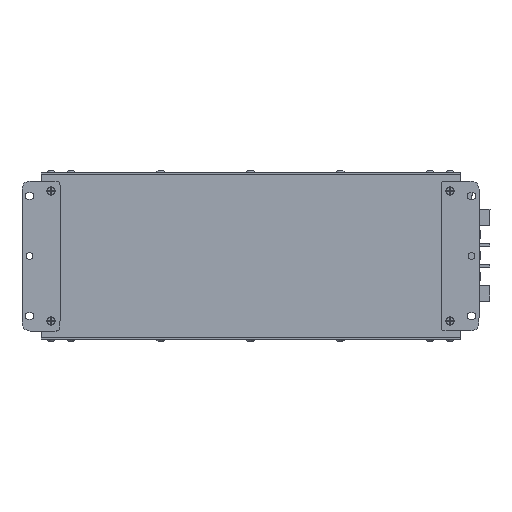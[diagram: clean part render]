
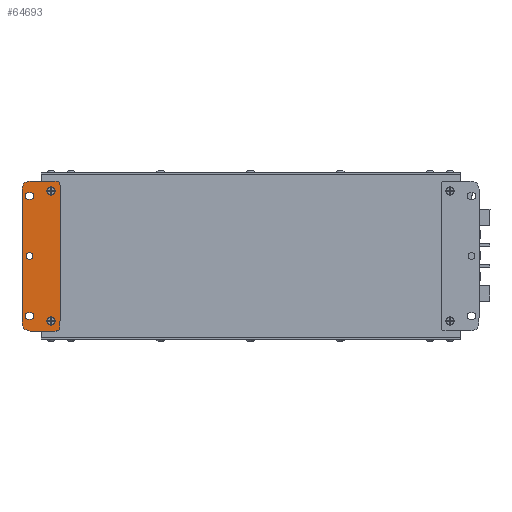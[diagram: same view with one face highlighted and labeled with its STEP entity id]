
A CAD part, front view. The second image highlights one B-rep face of the part: STEP entity #64693.
In plain terms, the highlighted planar face has unit normal (0, -1, 0).
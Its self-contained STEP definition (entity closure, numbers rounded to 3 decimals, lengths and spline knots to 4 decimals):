
#2730=FACE_BOUND('',#20089,.T.);
#2731=FACE_BOUND('',#20090,.T.);
#2732=FACE_BOUND('',#20091,.T.);
#2733=FACE_BOUND('',#20092,.T.);
#2734=FACE_BOUND('',#20093,.T.);
#3503=PLANE('',#67903);
#5825=LINE('',#92659,#11136);
#5826=LINE('',#92663,#11137);
#5827=LINE('',#92667,#11138);
#5828=LINE('',#92670,#11139);
#5829=LINE('',#92677,#11140);
#5830=LINE('',#92681,#11141);
#5831=LINE('',#92685,#11142);
#5832=LINE('',#92689,#11143);
#11136=VECTOR('',#74255,0.3937);
#11137=VECTOR('',#74258,0.3937);
#11138=VECTOR('',#74261,0.3937);
#11139=VECTOR('',#74264,0.3937);
#11140=VECTOR('',#74269,0.3937);
#11141=VECTOR('',#74272,0.3937);
#11142=VECTOR('',#74275,0.3937);
#11143=VECTOR('',#74278,0.3937);
#16921=FACE_OUTER_BOUND('',#20088,.T.);
#20088=EDGE_LOOP('',(#44651,#44652,#44653,#44654,#44655,#44656,#44657,#44658));
#20089=EDGE_LOOP('',(#44659));
#20090=EDGE_LOOP('',(#44660));
#20091=EDGE_LOOP('',(#44661,#44662,#44663,#44664));
#20092=EDGE_LOOP('',(#44665,#44666,#44667,#44668));
#20093=EDGE_LOOP('',(#44669));
#23536=CIRCLE('',#67902,0.1673);
#23537=CIRCLE('',#67904,0.315);
#23538=CIRCLE('',#67905,0.315);
#23539=CIRCLE('',#67906,0.1575);
#23540=CIRCLE('',#67907,0.1575);
#23541=CIRCLE('',#67908,0.1673);
#23542=CIRCLE('',#67909,0.1299);
#23543=CIRCLE('',#67910,0.1299);
#23544=CIRCLE('',#67911,0.1299);
#23545=CIRCLE('',#67912,0.1299);
#23546=CIRCLE('',#67913,0.1299);
#26425=VERTEX_POINT('',#92651);
#26426=VERTEX_POINT('',#92655);
#26427=VERTEX_POINT('',#92656);
#26428=VERTEX_POINT('',#92658);
#26429=VERTEX_POINT('',#92660);
#26430=VERTEX_POINT('',#92662);
#26431=VERTEX_POINT('',#92664);
#26432=VERTEX_POINT('',#92666);
#26433=VERTEX_POINT('',#92668);
#26434=VERTEX_POINT('',#92671);
#26435=VERTEX_POINT('',#92673);
#26436=VERTEX_POINT('',#92675);
#26437=VERTEX_POINT('',#92676);
#26438=VERTEX_POINT('',#92678);
#26439=VERTEX_POINT('',#92680);
#26440=VERTEX_POINT('',#92683);
#26441=VERTEX_POINT('',#92684);
#26442=VERTEX_POINT('',#92686);
#26443=VERTEX_POINT('',#92688);
#33750=EDGE_CURVE('',#26425,#26425,#23536,.T.);
#33752=EDGE_CURVE('',#26426,#26427,#23537,.T.);
#33753=EDGE_CURVE('',#26427,#26428,#5825,.T.);
#33754=EDGE_CURVE('',#26428,#26429,#23538,.T.);
#33755=EDGE_CURVE('',#26429,#26430,#5826,.T.);
#33756=EDGE_CURVE('',#26430,#26431,#23539,.T.);
#33757=EDGE_CURVE('',#26431,#26432,#5827,.T.);
#33758=EDGE_CURVE('',#26432,#26433,#23540,.T.);
#33759=EDGE_CURVE('',#26433,#26426,#5828,.T.);
#33760=EDGE_CURVE('',#26434,#26434,#23541,.T.);
#33761=EDGE_CURVE('',#26435,#26435,#23542,.T.);
#33762=EDGE_CURVE('',#26436,#26437,#5829,.T.);
#33763=EDGE_CURVE('',#26437,#26438,#23543,.T.);
#33764=EDGE_CURVE('',#26438,#26439,#5830,.T.);
#33765=EDGE_CURVE('',#26439,#26436,#23544,.T.);
#33766=EDGE_CURVE('',#26440,#26441,#5831,.T.);
#33767=EDGE_CURVE('',#26441,#26442,#23545,.T.);
#33768=EDGE_CURVE('',#26442,#26443,#5832,.T.);
#33769=EDGE_CURVE('',#26443,#26440,#23546,.T.);
#44651=ORIENTED_EDGE('',*,*,#33752,.T.);
#44652=ORIENTED_EDGE('',*,*,#33753,.T.);
#44653=ORIENTED_EDGE('',*,*,#33754,.T.);
#44654=ORIENTED_EDGE('',*,*,#33755,.T.);
#44655=ORIENTED_EDGE('',*,*,#33756,.T.);
#44656=ORIENTED_EDGE('',*,*,#33757,.T.);
#44657=ORIENTED_EDGE('',*,*,#33758,.T.);
#44658=ORIENTED_EDGE('',*,*,#33759,.T.);
#44659=ORIENTED_EDGE('',*,*,#33760,.F.);
#44660=ORIENTED_EDGE('',*,*,#33761,.T.);
#44661=ORIENTED_EDGE('',*,*,#33762,.T.);
#44662=ORIENTED_EDGE('',*,*,#33763,.T.);
#44663=ORIENTED_EDGE('',*,*,#33764,.T.);
#44664=ORIENTED_EDGE('',*,*,#33765,.T.);
#44665=ORIENTED_EDGE('',*,*,#33766,.T.);
#44666=ORIENTED_EDGE('',*,*,#33767,.T.);
#44667=ORIENTED_EDGE('',*,*,#33768,.T.);
#44668=ORIENTED_EDGE('',*,*,#33769,.T.);
#44669=ORIENTED_EDGE('',*,*,#33750,.F.);
#64693=ADVANCED_FACE('',(#16921,#2730,#2731,#2732,#2733,#2734),#3503,.T.);
#67902=AXIS2_PLACEMENT_3D('',#92652,#74248,#74249);
#67903=AXIS2_PLACEMENT_3D('',#92654,#74251,#74252);
#67904=AXIS2_PLACEMENT_3D('',#92657,#74253,#74254);
#67905=AXIS2_PLACEMENT_3D('',#92661,#74256,#74257);
#67906=AXIS2_PLACEMENT_3D('',#92665,#74259,#74260);
#67907=AXIS2_PLACEMENT_3D('',#92669,#74262,#74263);
#67908=AXIS2_PLACEMENT_3D('',#92672,#74265,#74266);
#67909=AXIS2_PLACEMENT_3D('',#92674,#74267,#74268);
#67910=AXIS2_PLACEMENT_3D('',#92679,#74270,#74271);
#67911=AXIS2_PLACEMENT_3D('',#92682,#74273,#74274);
#67912=AXIS2_PLACEMENT_3D('',#92687,#74276,#74277);
#67913=AXIS2_PLACEMENT_3D('',#92690,#74279,#74280);
#74248=DIRECTION('center_axis',(0.,-1.,0.));
#74249=DIRECTION('ref_axis',(0.,0.,-1.));
#74251=DIRECTION('center_axis',(0.,-1.,0.));
#74252=DIRECTION('ref_axis',(-1.,0.,0.));
#74253=DIRECTION('center_axis',(0.,-1.,0.));
#74254=DIRECTION('ref_axis',(0.,0.,1.));
#74255=DIRECTION('',(0.,0.,-1.));
#74256=DIRECTION('center_axis',(0.,-1.,0.));
#74257=DIRECTION('ref_axis',(-1.,0.,0.));
#74258=DIRECTION('',(1.,0.,0.));
#74259=DIRECTION('center_axis',(0.,-1.,0.));
#74260=DIRECTION('ref_axis',(0.,0.,-1.));
#74261=DIRECTION('',(0.,0.,1.));
#74262=DIRECTION('center_axis',(0.,-1.,0.));
#74263=DIRECTION('ref_axis',(1.,0.,0.));
#74264=DIRECTION('',(-1.,0.,0.));
#74265=DIRECTION('center_axis',(0.,-1.,0.));
#74266=DIRECTION('ref_axis',(0.,0.,-1.));
#74267=DIRECTION('center_axis',(0.,1.,0.));
#74268=DIRECTION('ref_axis',(0.,0.,-1.));
#74269=DIRECTION('',(1.,0.,0.));
#74270=DIRECTION('center_axis',(0.,1.,0.));
#74271=DIRECTION('ref_axis',(0.,0.,1.));
#74272=DIRECTION('',(-1.,0.,0.));
#74273=DIRECTION('center_axis',(0.,1.,0.));
#74274=DIRECTION('ref_axis',(0.,0.,-1.));
#74275=DIRECTION('',(1.,0.,0.));
#74276=DIRECTION('center_axis',(0.,1.,0.));
#74277=DIRECTION('ref_axis',(0.,0.,1.));
#74278=DIRECTION('',(-1.,0.,0.));
#74279=DIRECTION('center_axis',(0.,1.,0.));
#74280=DIRECTION('ref_axis',(0.,0.,-1.));
#92651=CARTESIAN_POINT('',(-16.4442,-0.1339,-0.7799));
#92652=CARTESIAN_POINT('Origin',(-16.4442,-0.1339,-0.9472));
#92654=CARTESIAN_POINT('Origin',(-16.8379,-0.1339,-3.5063));
#92655=CARTESIAN_POINT('',(-17.271,-0.1339,-0.5535));
#92656=CARTESIAN_POINT('',(-17.5859,-0.1339,-0.8685));
#92657=CARTESIAN_POINT('Origin',(-17.271,-0.1339,-0.8685));
#92658=CARTESIAN_POINT('',(-17.5859,-0.1339,-6.144));
#92659=CARTESIAN_POINT('',(-17.5859,-0.1339,-0.8685));
#92660=CARTESIAN_POINT('',(-17.271,-0.1339,-6.459));
#92661=CARTESIAN_POINT('Origin',(-17.271,-0.1339,-6.144));
#92662=CARTESIAN_POINT('',(-16.2474,-0.1339,-6.459));
#92663=CARTESIAN_POINT('',(-17.271,-0.1339,-6.459));
#92664=CARTESIAN_POINT('',(-16.0899,-0.1339,-6.3015));
#92665=CARTESIAN_POINT('Origin',(-16.2474,-0.1339,-6.3015));
#92666=CARTESIAN_POINT('',(-16.0899,-0.1339,-0.711));
#92667=CARTESIAN_POINT('',(-16.0899,-0.1339,-6.3015));
#92668=CARTESIAN_POINT('',(-16.2474,-0.1339,-0.5535));
#92669=CARTESIAN_POINT('Origin',(-16.2474,-0.1339,-0.711));
#92670=CARTESIAN_POINT('',(-16.2474,-0.1339,-0.5535));
#92671=CARTESIAN_POINT('',(-16.4442,-0.1339,-5.898));
#92672=CARTESIAN_POINT('Origin',(-16.4442,-0.1339,-6.0653));
#92673=CARTESIAN_POINT('',(-17.2907,-0.1339,-3.3763));
#92674=CARTESIAN_POINT('Origin',(-17.2907,-0.1339,-3.5063));
#92675=CARTESIAN_POINT('',(-17.33,-0.1339,-1.0141));
#92676=CARTESIAN_POINT('',(-17.2513,-0.1339,-1.0141));
#92677=CARTESIAN_POINT('',(-17.33,-0.1339,-1.0141));
#92678=CARTESIAN_POINT('',(-17.2513,-0.1339,-1.274));
#92679=CARTESIAN_POINT('Origin',(-17.2513,-0.1339,-1.144));
#92680=CARTESIAN_POINT('',(-17.33,-0.1339,-1.274));
#92681=CARTESIAN_POINT('',(-17.2513,-0.1339,-1.274));
#92682=CARTESIAN_POINT('Origin',(-17.33,-0.1339,-1.144));
#92683=CARTESIAN_POINT('',(-17.33,-0.1339,-5.7385));
#92684=CARTESIAN_POINT('',(-17.2513,-0.1339,-5.7385));
#92685=CARTESIAN_POINT('',(-17.33,-0.1339,-5.7385));
#92686=CARTESIAN_POINT('',(-17.2513,-0.1339,-5.9984));
#92687=CARTESIAN_POINT('Origin',(-17.2513,-0.1339,-5.8685));
#92688=CARTESIAN_POINT('',(-17.33,-0.1339,-5.9984));
#92689=CARTESIAN_POINT('',(-17.2513,-0.1339,-5.9984));
#92690=CARTESIAN_POINT('Origin',(-17.33,-0.1339,-5.8685));
